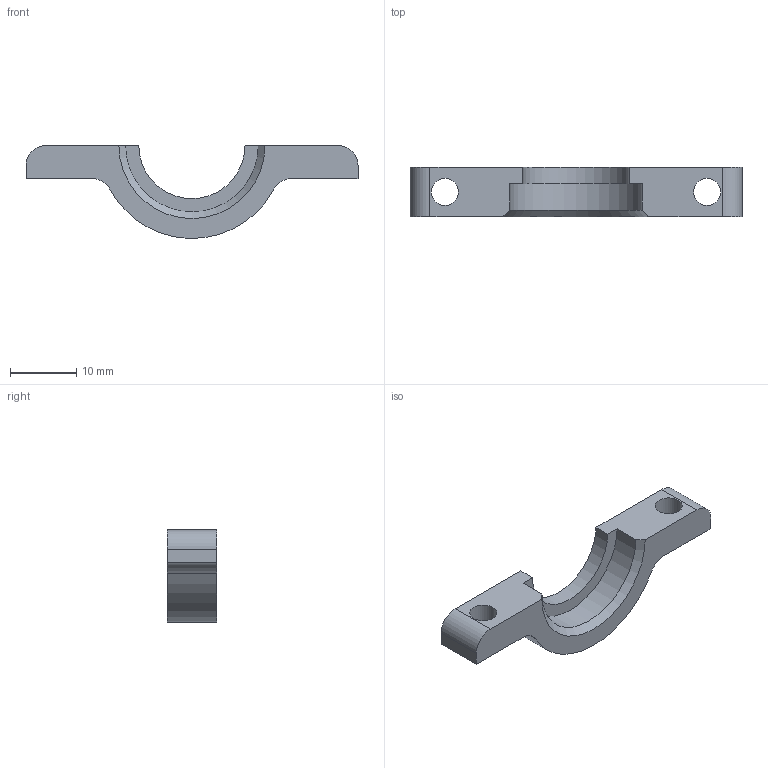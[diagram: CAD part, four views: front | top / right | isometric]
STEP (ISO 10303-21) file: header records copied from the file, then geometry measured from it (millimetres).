
FILE_DESCRIPTION(/* description */ (''),/* implementation_level */ '2;1');
FILE_NAME(/* name */ 'bearing_lower_bracket_26012016.stp',/* time_stamp */ '2016-01-26T01:30:08+03:00',/* author */ (''),/* organization */ (''),/* preprocessor_version */ 'ST-DEVELOPER v15',/* originating_system */ 'SIEMENS PLM Software NX 9.0',/* authorisation */ '');
FILE_SCHEMA (('AUTOMOTIVE_DESIGN { 1 0 10303 214 3 1 1 1 }'));
Length unit declared in the file: millimetre
Products named in the file (1): c0f007BCC3D27iv4
Bounding box: 50 x 7.5 x 14 mm (x, y, z)
Volume: 1951.8 mm3; surface area: 1628.9 mm2
Topology: 1 solids, 1 shells, 19 faces, 53 edges, 36 vertices
Faces by surface type: plane 9, cylinder 8, cone 1, bspline 1
Full cylindrical faces by diameter (mm): 4.1 x2
Entity records: 662 total; most frequent: CARTESIAN_POINT 140, DIRECTION 102, ORIENTED_EDGE 98, EDGE_CURVE 49, AXIS2_PLACEMENT_3D 36, VERTEX_POINT 34, LINE 30, VECTOR 30
